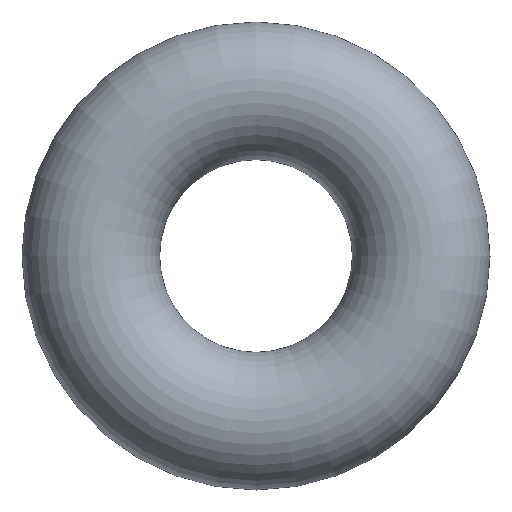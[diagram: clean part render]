
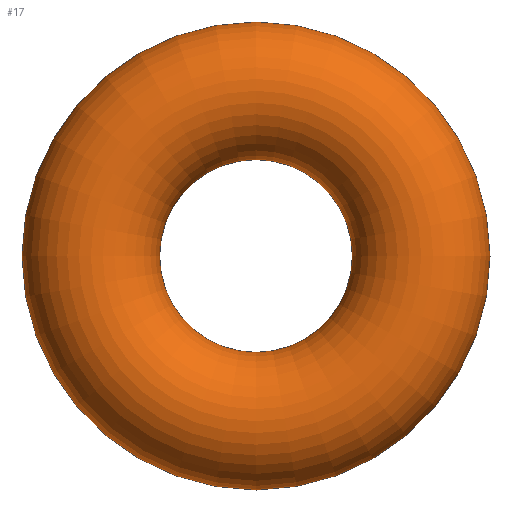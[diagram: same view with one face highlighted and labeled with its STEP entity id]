
A CAD part, front view. The second image highlights one B-rep face of the part: STEP entity #17.
In plain terms, the highlighted toroidal (fillet/blend) face has major radius 6 mm and minor radius 2.5 mm.
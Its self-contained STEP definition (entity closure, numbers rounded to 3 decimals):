
#17 = ADVANCED_FACE('',(#18),#31,.T.);
#18 = FACE_BOUND('',#19,.T.);
#19 = EDGE_LOOP('',(#20,#49,#71,#72));
#20 = ORIENTED_EDGE('',*,*,#21,.F.);
#21 = EDGE_CURVE('',#22,#22,#24,.T.);
#22 = VERTEX_POINT('',#23);
#23 = CARTESIAN_POINT('',(630.,0.,-84.));
#24 = SEAM_CURVE('',#25,(#30,#42),.PCURVE_S1.);
#25 = CIRCLE('',#26,8.5);
#26 = AXIS2_PLACEMENT_3D('',#27,#28,#29);
#27 = CARTESIAN_POINT('',(630.,0.,-92.5));
#28 = DIRECTION('',(0.,1.,0.));
#29 = DIRECTION('',(0.,-0.,1.));
#30 = PCURVE('',#31,#36);
#31 = TOROIDAL_SURFACE('',#32,6.,2.5);
#32 = AXIS2_PLACEMENT_3D('',#33,#34,#35);
#33 = CARTESIAN_POINT('',(630.,0.,-92.5));
#34 = DIRECTION('',(0.,1.,0.));
#35 = DIRECTION('',(0.,-0.,1.));
#36 = DEFINITIONAL_REPRESENTATION('',(#37),#41);
#37 = LINE('',#38,#39);
#38 = CARTESIAN_POINT('',(0.,6.283));
#39 = VECTOR('',#40,1.);
#40 = DIRECTION('',(1.,0.));
#41 = ( GEOMETRIC_REPRESENTATION_CONTEXT(2) 
PARAMETRIC_REPRESENTATION_CONTEXT() REPRESENTATION_CONTEXT('2D SPACE',''
  ) );
#42 = PCURVE('',#31,#43);
#43 = DEFINITIONAL_REPRESENTATION('',(#44),#48);
#44 = LINE('',#45,#46);
#45 = CARTESIAN_POINT('',(0.,0.));
#46 = VECTOR('',#47,1.);
#47 = DIRECTION('',(1.,0.));
#48 = ( GEOMETRIC_REPRESENTATION_CONTEXT(2) 
PARAMETRIC_REPRESENTATION_CONTEXT() REPRESENTATION_CONTEXT('2D SPACE',''
  ) );
#49 = ORIENTED_EDGE('',*,*,#50,.F.);
#50 = EDGE_CURVE('',#22,#22,#51,.T.);
#51 = SEAM_CURVE('',#52,(#57,#64),.PCURVE_S1.);
#52 = CIRCLE('',#53,2.5);
#53 = AXIS2_PLACEMENT_3D('',#54,#55,#56);
#54 = CARTESIAN_POINT('',(630.,0.,-86.5));
#55 = DIRECTION('',(-1.,0.,0.));
#56 = DIRECTION('',(0.,0.,1.));
#57 = PCURVE('',#31,#58);
#58 = DEFINITIONAL_REPRESENTATION('',(#59),#63);
#59 = LINE('',#60,#61);
#60 = CARTESIAN_POINT('',(6.283,-0.));
#61 = VECTOR('',#62,1.);
#62 = DIRECTION('',(0.,1.));
#63 = ( GEOMETRIC_REPRESENTATION_CONTEXT(2) 
PARAMETRIC_REPRESENTATION_CONTEXT() REPRESENTATION_CONTEXT('2D SPACE',''
  ) );
#64 = PCURVE('',#31,#65);
#65 = DEFINITIONAL_REPRESENTATION('',(#66),#70);
#66 = LINE('',#67,#68);
#67 = CARTESIAN_POINT('',(0.,-0.));
#68 = VECTOR('',#69,1.);
#69 = DIRECTION('',(0.,1.));
#70 = ( GEOMETRIC_REPRESENTATION_CONTEXT(2) 
PARAMETRIC_REPRESENTATION_CONTEXT() REPRESENTATION_CONTEXT('2D SPACE',''
  ) );
#71 = ORIENTED_EDGE('',*,*,#21,.T.);
#72 = ORIENTED_EDGE('',*,*,#50,.T.);
